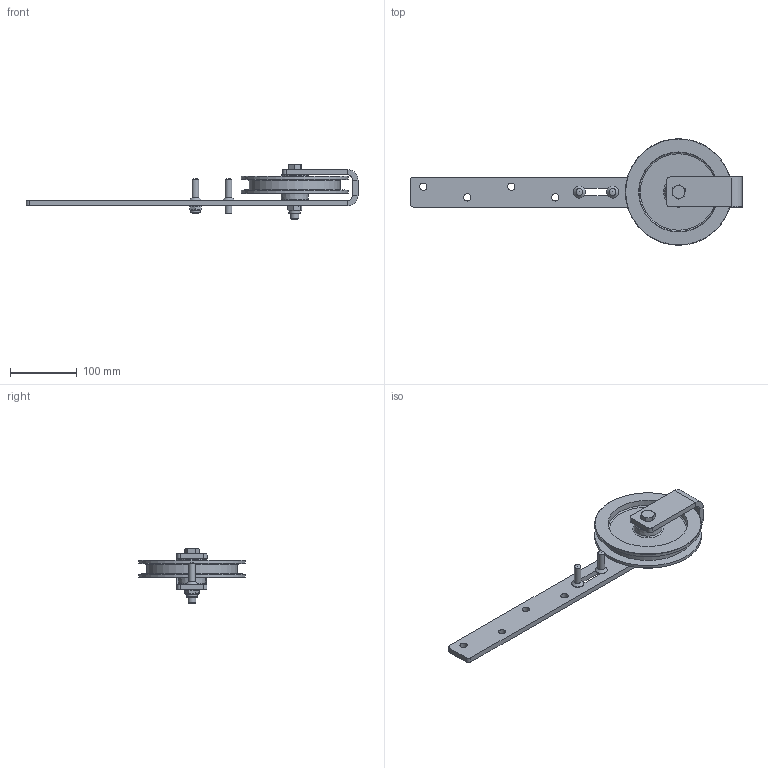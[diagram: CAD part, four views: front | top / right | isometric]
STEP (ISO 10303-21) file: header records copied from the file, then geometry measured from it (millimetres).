
FILE_DESCRIPTION(/* description */ ('Schiebetorrolle mit Buegel Ø160'),/* implementation_level */ '2;1');
FILE_NAME(/* name */ 'C:\Temp\AG_VJobSTP\010330173.iam.stp',/* time_stamp */ '2022-09-02T10:00:47+02:00',/* author */ ('Lesti'),/* organization */ (''),/* preprocessor_version */ 'ST-DEVELOPER v18.1',/* originating_system */ 'Autodesk Inventor 2021',/* authorisation */ '');
FILE_SCHEMA (('AUTOMOTIVE_DESIGN { 1 0 10303 214 3 1 1 }'));
Length unit declared in the file: millimetre
Products named in the file (8): 010330173; 011330152_02; 337000106; DIN EN ISO 7040 - M12; DIN 931-1 - M12 x 75; 011331037; DIN EN ISO 7040 - M10; 010330165_02
Assembly tree (16 placements, depth 2):
  010330173
    011330152_02
    337000106
    DIN EN ISO 7040 - M12
    DIN 931-1 - M12 x 75
    011331037  x2
    DIN EN ISO 7040 - M10
    010330165_02  x9
Bounding box: 498 x 160 x 82.5 mm (x, y, z)
Volume: 483569.6 mm3; surface area: 160738.5 mm2
Topology: 16 solids, 16 shells, 225 faces, 492 edges, 312 vertices
Faces by surface type: plane 115, cylinder 43, bspline 34, cone 27, torus 6
Full cylindrical faces by diameter (mm): 6 x9, 8.376 x1, 10 x4, 10.106 x1, 11 x4, 12 x1, 12.5 x2, 15.6 x1, 17.4 x2, 18 x2, 24 x1, 136 x1, 160 x2
Entity records: 5861 total; most frequent: CARTESIAN_POINT 1431, ORIENTED_EDGE 864, DIRECTION 803, EDGE_CURVE 432, AXIS2_PLACEMENT_3D 294, VERTEX_POINT 275, EDGE_LOOP 219, LINE 215
